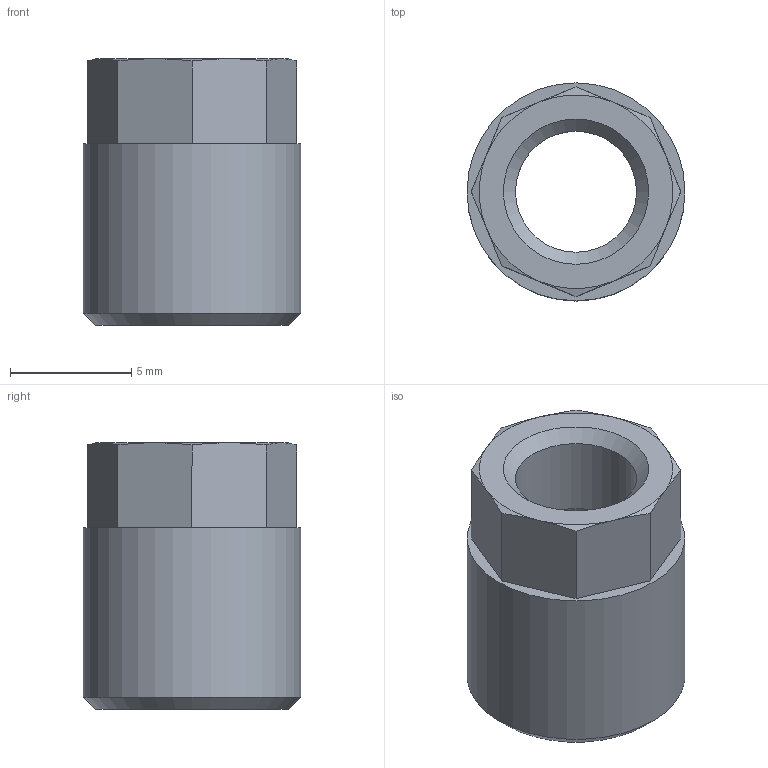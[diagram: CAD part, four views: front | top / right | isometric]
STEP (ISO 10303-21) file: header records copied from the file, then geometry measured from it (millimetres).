
FILE_DESCRIPTION(/* description */ (''),/* implementation_level */ '2;1');
FILE_NAME(/* name */ '17003_310_53_M7X0,75_15.08.17',/* time_stamp */ '2017-08-15T09:28:53+02:00',/* author */ (''),/* organization */ (''),/* preprocessor_version */ 'ST-DEVELOPER v16.5',/* originating_system */ 'HiCAD 2016 2102.2 Build 618',/* authorisation */ '');
FILE_SCHEMA (('AUTOMOTIVE_DESIGN { 1 0 10303 214 1 1 1 1 }'));
Length unit declared in the file: millimetre
Products named in the file (2): Root; 17003
Assembly tree (1 placements, depth 2):
  Root
    17003
Bounding box: 9 x 9 x 11 mm (x, y, z)
Volume: 375.2 mm3; surface area: 564 mm2
Topology: 1 solids, 1 shells, 27 faces, 62 edges, 38 vertices
Faces by surface type: cone 12, plane 11, cylinder 3, torus 1
Full cylindrical faces by diameter (mm): 5 x1, 6.08 x1, 9 x1
Entity records: 1234 total; most frequent: DIRECTION 142, CARTESIAN_POINT 113, PRESENTATION_STYLE_ASSIGNMENT 101, COLOUR_RGB 101, DRAUGHTING_PRE_DEFINED_CURVE_FONT 100, CURVE_STYLE 100, OVER_RIDING_STYLED_ITEM 100, ORIENTED_EDGE 100
